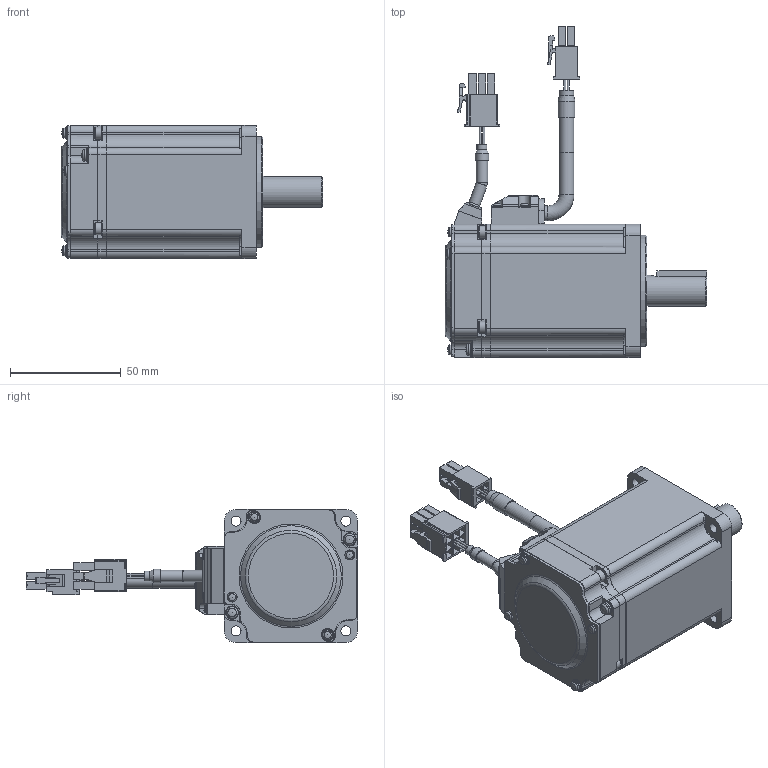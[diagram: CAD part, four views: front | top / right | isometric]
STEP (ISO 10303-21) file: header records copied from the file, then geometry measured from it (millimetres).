
FILE_DESCRIPTION(/* description */ ('STEP AP203'),/* implementation_level */ '2;1');
FILE_NAME(/* name */ 'MHMF042L1U2 2',/* time_stamp */ '2023-07-05T05:28:04+02:00',/* author */ ('License CC BY-ND 4.0'),/* organization */ ('CADENAS'),/* preprocessor_version */ 'ST-DEVELOPER v19.3',/* originating_system */ 'PARTsolutions',/* authorisation */ ' ');
FILE_SCHEMA (('CONFIG_CONTROL_DESIGN'));
Length unit declared in the file: millimetre
Products named in the file (8): MHMF042L1U2 2; MHMF Connector 9 Pin_A6; Cable Brake Top 04; Cable Brake Bottom 04; Motor Connector_2; Cable Motor Top 04; Cable Motor Bottom 04; MHMF042L1U22
Assembly tree (7 placements, depth 2):
  MHMF042L1U2 2
    MHMF Connector 9 Pin_A6
    Cable Brake Top 04
    Cable Brake Bottom 04
    Motor Connector_2
    Cable Motor Top 04
    Cable Motor Bottom 04
    MHMF042L1U22
Bounding box: 118 x 149.2 x 60 mm (x, y, z)
Volume: 304815.7 mm3; surface area: 43226.8 mm2
Topology: 7 solids, 7 shells, 798 faces, 2055 edges, 1345 vertices
Faces by surface type: plane 515, cylinder 225, cone 29, torus 17, sphere 12
Full cylindrical faces by diameter (mm): 1 x8, 1.82 x4, 2.6 x13, 4.134 x1, 4.3 x4, 4.5 x7, 5.1 x2, 5.2 x2, 5.5 x4, 5.7 x2, 5.9 x2, 6 x7, 6.7 x4, 7.6 x1, 14 x1, 14.9 x1, 18 x1, 50 x1
Entity records: 24452 total; most frequent: CARTESIAN_POINT 4073, DIRECTION 4026, ORIENTED_EDGE 3800, EDGE_CURVE 1900, LINE 1352, VECTOR 1352, AXIS2_PLACEMENT_3D 1337, VERTEX_POINT 1313
